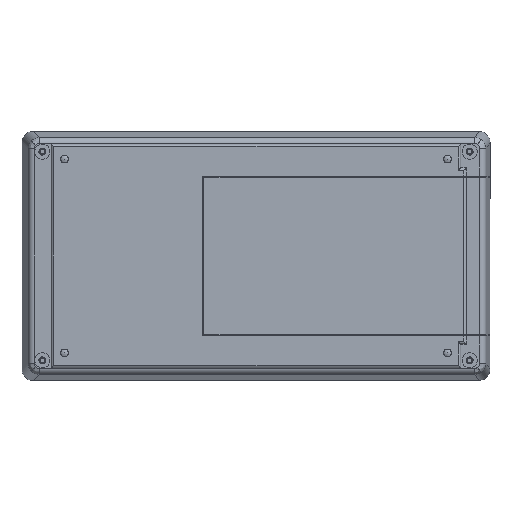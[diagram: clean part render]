
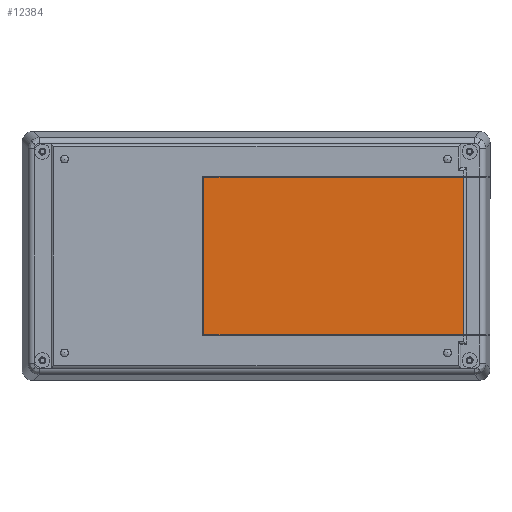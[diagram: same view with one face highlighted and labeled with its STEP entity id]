
A CAD part, front view. The second image highlights one B-rep face of the part: STEP entity #12384.
In plain terms, the highlighted planar face has unit normal (0, -1, 0).
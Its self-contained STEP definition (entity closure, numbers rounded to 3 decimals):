
#267 = VERTEX_POINT ( 'NONE', #11236 ) ;
#1303 = VECTOR ( 'NONE', #1944, 1000. ) ;
#1502 = VERTEX_POINT ( 'NONE', #13338 ) ;
#1944 = DIRECTION ( 'NONE',  ( 0., 0., 1. ) ) ;
#2053 = VECTOR ( 'NONE', #9967, 1000. ) ;
#2123 = ORIENTED_EDGE ( 'NONE', *, *, #4947, .F. ) ;
#2686 = LINE ( 'NONE', #5223, #3050 ) ;
#3050 = VECTOR ( 'NONE', #7589, 1000. ) ;
#3095 = CARTESIAN_POINT ( 'NONE',  ( -21.2, -18.3, -32. ) ) ;
#3176 = EDGE_LOOP ( 'NONE', ( #5866, #10502, #2123, #6289 ) ) ;
#3759 = EDGE_CURVE ( 'NONE', #12177, #1502, #5029, .T. ) ;
#4629 = VECTOR ( 'NONE', #13837, 1000. ) ;
#4947 = EDGE_CURVE ( 'NONE', #12177, #267, #5178, .T. ) ;
#5029 = LINE ( 'NONE', #5631, #4629 ) ;
#5056 = EDGE_CURVE ( 'NONE', #267, #10176, #7570, .T. ) ;
#5112 = PLANE ( 'NONE',  #14887 ) ;
#5178 = LINE ( 'NONE', #6461, #2053 ) ;
#5223 = CARTESIAN_POINT ( 'NONE',  ( 84.65, -18.3, 32. ) ) ;
#5631 = CARTESIAN_POINT ( 'NONE',  ( 84.65, -18.3, -50.7 ) ) ;
#5866 = ORIENTED_EDGE ( 'NONE', *, *, #15114, .F. ) ;
#6119 = CARTESIAN_POINT ( 'NONE',  ( -21.2, -18.3, 32. ) ) ;
#6289 = ORIENTED_EDGE ( 'NONE', *, *, #3759, .T. ) ;
#6461 = CARTESIAN_POINT ( 'NONE',  ( 84.65, -18.3, -32. ) ) ;
#7116 = CARTESIAN_POINT ( 'NONE',  ( 84.65, -18.3, -32. ) ) ;
#7481 = DIRECTION ( 'NONE',  ( 0., 0., -1. ) ) ;
#7570 = LINE ( 'NONE', #3095, #1303 ) ;
#7589 = DIRECTION ( 'NONE',  ( 1., 0., 0. ) ) ;
#9967 = DIRECTION ( 'NONE',  ( -1., 0., 0. ) ) ;
#10176 = VERTEX_POINT ( 'NONE', #6119 ) ;
#10502 = ORIENTED_EDGE ( 'NONE', *, *, #5056, .F. ) ;
#11236 = CARTESIAN_POINT ( 'NONE',  ( -21.2, -18.3, -32. ) ) ;
#12177 = VERTEX_POINT ( 'NONE', #7116 ) ;
#12384 = ADVANCED_FACE ( 'NONE', ( #13274 ), #5112, .T. ) ;
#13274 = FACE_OUTER_BOUND ( 'NONE', #3176, .T. ) ;
#13284 = CARTESIAN_POINT ( 'NONE',  ( -95.3, -18.3, -50.7 ) ) ;
#13338 = CARTESIAN_POINT ( 'NONE',  ( 84.65, -18.3, 32. ) ) ;
#13837 = DIRECTION ( 'NONE',  ( 0., 0., 1. ) ) ;
#14449 = DIRECTION ( 'NONE',  ( 0., -1., 0. ) ) ;
#14887 = AXIS2_PLACEMENT_3D ( 'NONE', #13284, #14449, #7481 ) ;
#15114 = EDGE_CURVE ( 'NONE', #10176, #1502, #2686, .T. ) ;
